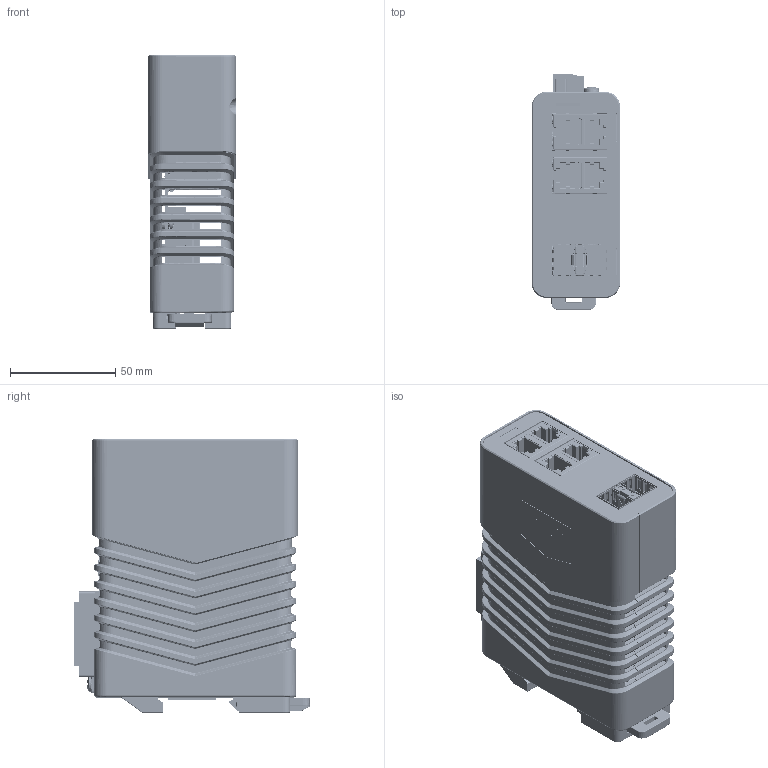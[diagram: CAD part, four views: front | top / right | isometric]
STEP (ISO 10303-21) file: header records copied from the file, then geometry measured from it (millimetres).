
FILE_DESCRIPTION (( 'STEP AP214' ), '1' );
FILE_NAME ('NT5006-DM2.STEP', '2023-01-23T21:03:11', ( '' ), ( '' ), 'SwSTEP 2.0', 'SolidWorks 2022', '' );
FILE_SCHEMA (( 'AUTOMOTIVE_DESIGN' ));
Length unit declared in the file: millimetre
Products named in the file (23): NPTP0061; 11612; 10670; 11820_95345A444; 11821; 3_85 MASTER PART FILE; HWSMCZ08_95345A426; 5006-DM2 Core Board; NT5006-DM2; 11610; 96439A130_18-8 SS PRESS-FIT NUT FOR SHEET METAL_96439A130; 11616_thin; 11702_11702; 10783; label bulkhead; 11618; 11071; 10778; 11705_top two and SFP open; LOGO Sticker; 11836; overlay front narrow 6RJ spacing_4RJs + SFP
Assembly tree (34 placements, depth 3):
  3_85 MASTER PART FILE
  NT5006-DM2
    11610
    11612
    11616_thin
    11618
    11702_11702
    11705_top two and SFP open
      11705_top two and SFP open
      96439A130_18-8 SS PRESS-FIT NUT FOR SHEET METAL_96439A130  x2
    HWSMCZ08_95345A426  x9
    11820_95345A444  x4
    11821
    11836  x2
    10778
    10670
    overlay front narrow 6RJ spacing_4RJs + SFP
    label bulkhead
    LOGO Sticker
    NPTP0061
    5006-DM2 Core Board
    11071
    10783
Bounding box: 42.04 x 111.86 x 129.79 mm (x, y, z)
Volume: 159764.9 mm3; surface area: 160047.5 mm2
Topology: 51 solids, 53 shells, 11048 faces, 29898 edges, 19072 vertices
Faces by surface type: plane 5062, cylinder 3604, bspline 1574, cone 406, torus 250, sphere 152
Entity records: 382537 total; most frequent: CARTESIAN_POINT 115779, ORIENTED_EDGE 46528, DIRECTION 40607, EDGE_CURVE 23274, VERTEX_POINT 14948, LINE 14017, VECTOR 14017, AXIS2_PLACEMENT_3D 13295
